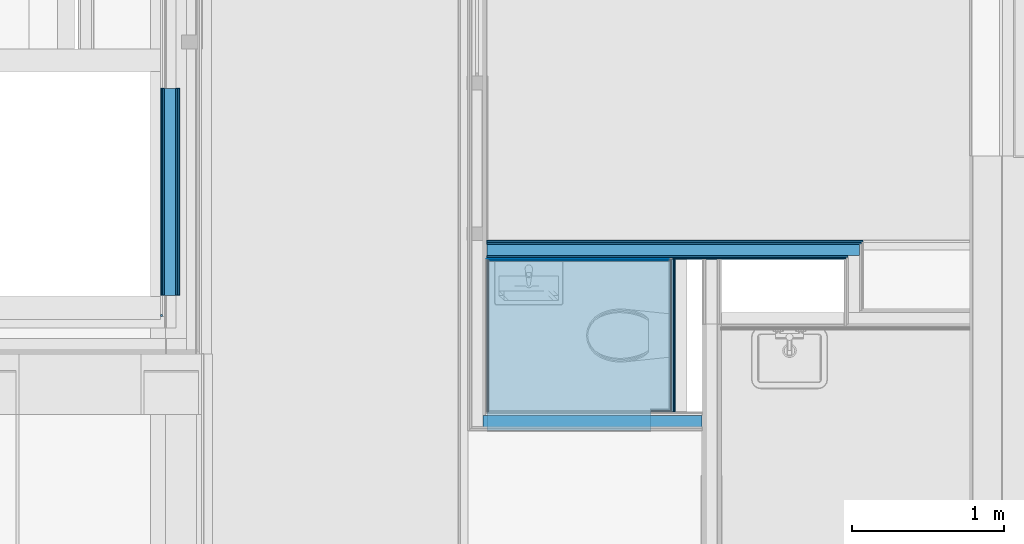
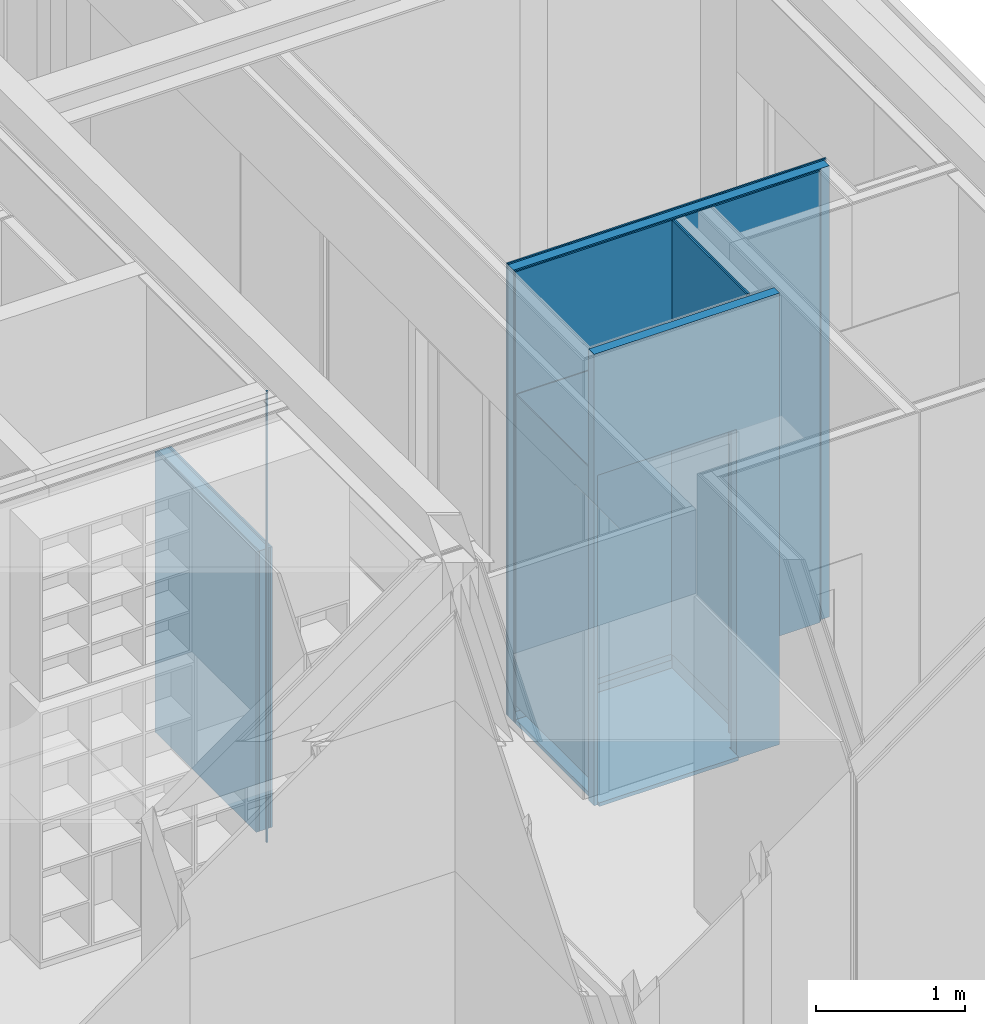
# One storey, part 73 of 137: 20 building element parts, 1 opening, 10 elements without a shape of their own.
"""IFC2X3 building model written with IfcOpenShell, lengths in millimetres."""

from ifc_helpers import new_model, entity, si_unit, converted_unit, derived_unit, money_unit, direction, frame, origin_with_axes, place, context, subcontext, project, spatial, faceted_brep, material, type_object, element, aggregate, save


model = new_model("IFC2X3")

# Units and contexts
model_context = context("Model", 3, precision=0.01, world=origin_with_axes(), true_north=direction((0.0, 1.0)))
body_context = subcontext(model_context, "Body", "Model", "MODEL_VIEW")
ifc_project = project(units=[si_unit("LENGTHUNIT", "METRE", prefix="MILLI"), si_unit("AREAUNIT", "SQUARE_METRE"), si_unit("VOLUMEUNIT", "CUBIC_METRE"), converted_unit("PLANEANGLEUNIT", "DEGREE", entity("IfcPlaneAngleMeasure", 0.0174532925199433), si_unit("PLANEANGLEUNIT", "RADIAN"), dimensions=[0, 0, 0, 0, 0, 0, 0]), money_unit("EUR"), converted_unit("TIMEUNIT", "Year", entity("IfcTimeMeasure", 31556926.0), si_unit("TIMEUNIT", "SECOND"), dimensions=[0, 0, 1, 0, 0, 0, 0]), si_unit("MASSUNIT", "GRAM", prefix="KILO"), si_unit("THERMODYNAMICTEMPERATUREUNIT", "DEGREE_CELSIUS"), si_unit("LUMINOUSINTENSITYUNIT", "LUMEN"), si_unit("ENERGYUNIT", "JOULE", prefix="MEGA"), derived_unit("THERMALCONDUCTANCEUNIT", [(si_unit("POWERUNIT", "WATT"), 1), (si_unit("LENGTHUNIT", "METRE"), -1), (si_unit("THERMODYNAMICTEMPERATUREUNIT", "KELVIN"), -1)]), derived_unit("SPECIFICHEATCAPACITYUNIT", [(si_unit("ENERGYUNIT", "JOULE"), 1), (si_unit("MASSUNIT", "GRAM", prefix="KILO"), -1), (si_unit("THERMODYNAMICTEMPERATUREUNIT", "KELVIN"), -1)]), derived_unit("MASSDENSITYUNIT", [(si_unit("MASSUNIT", "GRAM", prefix="KILO"), 1), (si_unit("VOLUMEUNIT", "CUBIC_METRE"), -1)])], contexts=[model_context])

# Site, building, storey
site_placement = place(None, origin_with_axes())
site = spatial("IfcSite", under=ifc_project, at=site_placement, Name="Site", CompositionType="ELEMENT")
building_placement = place(site_placement, origin_with_axes())
building = spatial("IfcBuilding", under=site, at=building_placement, Name="Naam gebouw", CompositionType="ELEMENT")
storey_placement = place(building_placement, frame((0.0, 0.0, 3960.0), z_axis=(0.0, 0.0, 1.0), x_axis=(1.0, 0.0, 0.0)))
storey = spatial("IfcBuildingStorey", under=building, at=storey_placement, Name="1e verdieping", CompositionType="ELEMENT", Elevation=3960.0)

# Proxy, building element part
building_element_proxy_type_1 = type_object("IfcBuildingElementProxyType", Name="22 Metal stud 270 oregon pine 270", PredefinedType="NOTDEFINED")
proxy_1_placement = place(storey_placement, frame((24499.99903999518, 13039.99778166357, -100.0000000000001), z_axis=(0.0, 0.0, 1.0), x_axis=(-1.0, 0.0, 0.0)))
proxy_1 = element("IfcBuildingElementProxy", 1, at=proxy_1_placement, inside=storey, type_object=building_element_proxy_type_1, Name="_Wand-x")
ifc_material_1 = material(Name="Gipsplaat")
building_element_part_1_placement = place(proxy_1_placement, origin_with_axes())
building_element_part_1 = element("IfcBuildingElementPart", 2, at=building_element_part_1_placement, material=ifc_material_1, Name="Gipsplaat", context=body_context, shape_type="Brep", body=[
    faceted_brep([(134.999999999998, -122.5000000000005, 0.0), (134.999999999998, -122.5000000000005, 3685.000029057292), (122.4999999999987, -122.5000000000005, 3685.000029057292), (122.4999999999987, -122.5000000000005, 0.0), (134.999999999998, -109.9999999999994, 3685.000029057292), (134.999999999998, -109.9999999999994, 0.0), (122.4999999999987, -109.9999999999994, 3685.000029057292), (122.4999999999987, -109.9999999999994, 0.0)], [[[0, 1, 2, 3]], [[4, 1, 0, 5]], [[1, 4, 6, 2]], [[3, 2, 6, 7]], [[5, 0, 3, 7]], [[4, 5, 7, 6]]]),
    faceted_brep([(134.999999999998, -122.5000000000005, 3695.000029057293), (134.999999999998, -122.5000000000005, 3700.0), (122.4999999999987, -122.5000000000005, 3700.0), (122.4999999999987, -122.5000000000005, 3695.000029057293), (134.999999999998, -109.9999999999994, 3700.0), (134.999999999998, -109.9999999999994, 3695.000029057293), (122.4999999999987, -109.9999999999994, 3700.0), (122.4999999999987, -109.9999999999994, 3695.000029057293)], [[[0, 1, 2, 3]], [[4, 1, 0, 5]], [[1, 4, 6, 2]], [[6, 7, 3, 2]], [[5, 0, 3, 7]], [[4, 5, 7, 6]]]),
])
aggregate(proxy_1, [building_element_part_1])

# Proxy, building element parts
building_element_proxy_type_2 = type_object("IfcBuildingElementProxyType", Name="22 Metal stud 100 voorzetwand 100", PredefinedType="NOTDEFINED")
proxy_2_placement = place(storey_placement, frame((27724.99819637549, 13524.99144022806, -100.0000000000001), z_axis=(0.0, 0.0, 1.0), x_axis=(-4.734245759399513e-08, -0.9999999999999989, 0.0)))
proxy_2 = element("IfcBuildingElementProxy", 3, at=proxy_2_placement, inside=storey, type_object=building_element_proxy_type_2, Name="_Wand-x")
building_element_part_2_placement = place(proxy_2_placement, origin_with_axes())
building_element_part_2 = element("IfcBuildingElementPart", 4, at=building_element_part_2_placement, material=ifc_material_1, Name="Gipsplaat", context=body_context, shape_type="Brep", body=[
    faceted_brep([(999.998965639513, 4.734240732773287e-05, 0.0), (0.0, 0.0, 0.0), (-5.917808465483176e-07, 12.49999999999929, 0.0), (999.9989567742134, 12.50004734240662, 0.0), (999.998965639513, 4.734240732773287e-05, 3700.0), (0.0, 0.0, 3700.0), (-5.917808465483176e-07, 12.49999999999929, 3700.0), (999.9989567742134, 12.50004734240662, 3700.0)], [[[0, 1, 2, 3]], [[4, 5, 1, 0]], [[2, 1, 5, 6]], [[3, 2, 6, 7]], [[3, 7, 4, 0]], [[7, 6, 5, 4]]]),
])
building_element_part_3_placement = place(proxy_2_placement, origin_with_axes())
building_element_part_3 = element("IfcBuildingElementPart", 5, at=building_element_part_3_placement, material=ifc_material_1, Name="Gipsplaat", context=body_context, shape_type="Brep", body=[
    faceted_brep([(999.9989567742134, 12.50004734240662, 0.0), (-5.917808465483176e-07, 12.49999999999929, 0.0), (-1.183561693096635e-06, 24.99999999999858, 0.0), (999.998947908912, 25.00004734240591, 0.0), (999.9989567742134, 12.50004734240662, 3700.0), (-5.917808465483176e-07, 12.49999999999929, 3700.0), (-1.183561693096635e-06, 24.99999999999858, 3700.0), (999.998947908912, 25.00004734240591, 3700.0)], [[[0, 1, 2, 3]], [[4, 5, 1, 0]], [[2, 1, 5, 6]], [[3, 2, 6, 7]], [[3, 7, 4, 0]], [[7, 6, 5, 4]]]),
])
aggregate(proxy_2, [building_element_part_2, building_element_part_3])

# Proxy, opening, building element part
building_element_proxy_type_3 = type_object("IfcBuildingElementProxyType", Name="22 Metal stud 125 oregon pine 125", PredefinedType="NOTDEFINED")
proxy_3_placement = place(storey_placement, frame((26386.00000000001, 12399.99158833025, -100.0000000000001), z_axis=(0.0, 0.0, 1.0), x_axis=(0.999999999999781, 6.618815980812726e-07, 0.0)))
proxy_3 = element("IfcBuildingElementProxy", 6, at=proxy_3_placement, inside=storey, type_object=building_element_proxy_type_3, Name="_Wand-x")
opening_placement = place(proxy_3_placement, frame((665.0000872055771, 0.0, 100.0000000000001), z_axis=(0.0, 0.0, 1.0), x_axis=(1.0, 0.0, 0.0)))
element("IfcOpeningElement", 7, at=opening_placement, cuts=proxy_3, Name="_01.04", context=body_context, shape_type="Brep", body=[
    faceted_brep([(540.0000833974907, 126.0002210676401, 2600.0), (540.0000833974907, 126.0002210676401, -100.0000000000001), (-539.9999166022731, 126.000935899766, -100.0000000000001), (-539.9999166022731, 126.000935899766, 2600.0), (539.999999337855, -1.00079756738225, 2600.0), (539.999999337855, -1.00079756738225, -100.0000000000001), (-540.0000006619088, -1.000082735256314, -100.0000000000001), (-540.0000006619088, -1.000082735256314, 2600.0)], [[[0, 1, 2, 3]], [[4, 5, 1, 0]], [[5, 6, 2, 1]], [[6, 7, 3, 2]], [[7, 4, 0, 3]], [[6, 5, 4, 7]]]),
])
ifc_material_2 = material(Name="ALG - LICHTE SCHEIDINGSWAND")
building_element_part_4_placement = place(proxy_3_placement, origin_with_axes())
building_element_part_4 = element("IfcBuildingElementPart", 8, at=building_element_part_4_placement, material=ifc_material_2, Name="ALG - LICHTE SCHEIDINGSWAND", context=body_context, shape_type="Brep", body=[
    faceted_brep([(125.0001533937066, 99.99991726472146, 2700.0), (125.0001533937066, 99.99991726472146, 0.0), (100.0000661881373, 99.99993381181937, 0.0), (100.0000661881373, 99.99993381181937, 3700.0), (1538.99771174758, 99.9989813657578, 3700.0), (1538.99771174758, 99.9989813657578, 0.0), (1205.000153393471, 99.99920243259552, 0.0), (1205.000153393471, 99.99920243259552, 2700.0), (125.000103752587, 24.99991726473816, 2700.0), (125.000103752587, 24.99991726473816, 0.0), (100.0000165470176, 24.99993381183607, 0.0), (100.0000165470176, 24.99993381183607, 3700.0), (1538.99766210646, 24.9989813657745, 3700.0), (1538.99766210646, 24.9989813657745, 0.0), (1205.000103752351, 24.99920243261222, 0.0), (1205.000103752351, 24.99920243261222, 2700.0)], [[[0, 1, 2, 3, 4, 5, 6, 7]], [[1, 0, 8, 9]], [[1, 9, 10, 2]], [[10, 11, 3, 2]], [[3, 11, 12, 4]], [[4, 12, 13, 5]], [[14, 6, 5, 13]], [[7, 6, 14, 15]], [[0, 7, 15, 8]], [[15, 14, 13, 12, 11, 10, 9, 8]]]),
])
aggregate(proxy_3, [building_element_part_4])

# Slab, building element part
slab_type = type_object("IfcSlabType", Name="43 Zwevende dekvloer 100", PredefinedType="NOTDEFINED")
slab_placement = place(storey_placement, frame((26511.0000827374, 13524.99822966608, 0.0), z_axis=(0.0, 0.0, 1.0), x_axis=(1.0, 0.0, 0.0)))
slab = element("IfcSlab", 9, at=slab_placement, inside=storey, type_object=slab_type, Name="_Vloer-x", PredefinedType="NOTDEFINED")
ifc_material_3 = material(Name="Isolatie - XPS zwevende dekvloer")
building_element_part_5_placement = place(slab_placement, origin_with_axes())
building_element_part_5 = element("IfcBuildingElementPart", 10, at=building_element_part_5_placement, material=ifc_material_3, Name="Isolatie - XPS zwevende dekvloer", context=body_context, shape_type="Brep", body=[
    faceted_brep([(0.0, 0.0, -100.0000000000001), (0.0, -1125.006641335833, -100.0000000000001), (0.0, -1125.006641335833, -69.99999999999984), (0.0, 0.0, -69.99999999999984), (1213.998092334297, 0.004351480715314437, -100.0000000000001), (1213.998066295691, -1000.005755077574, -100.0000000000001), (1079.999999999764, -1000.005755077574, -100.0000000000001), (1079.999976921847, -1125.006641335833, -100.0000000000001), (1079.999976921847, -1125.006641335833, -69.99999999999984), (1079.999999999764, -1000.005755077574, -69.99999999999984), (1213.998066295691, -1000.005755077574, -69.99999999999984), (1213.998092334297, 0.004351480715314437, -69.99999999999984)], [[[0, 1, 2, 3]], [[0, 4, 5, 6, 7, 1]], [[1, 7, 8, 2]], [[3, 2, 8, 9, 10, 11]], [[4, 0, 3, 11]], [[5, 4, 11, 10]], [[6, 5, 10, 9]], [[7, 6, 9, 8]]]),
])
aggregate(slab, [building_element_part_5])

# Proxy, building element part
building_element_proxy_type_4 = type_object("IfcBuildingElementProxyType", Name="42 Tegelwerk 2600+ 12 x 2600", PredefinedType="NOTDEFINED")
proxy_4_placement = place(storey_placement, frame((27590.99998676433, 12544.9923858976, 0.0), z_axis=(0.0, 0.0, 1.0), x_axis=(0.999999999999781, 6.618815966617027e-07, 0.0)))
proxy_4 = element("IfcBuildingElementProxy", 11, at=proxy_4_placement, inside=storey, type_object=building_element_proxy_type_4, Name="_Wand-x")
ifc_material_4 = material(Name="21 STO lijmlaag")
building_element_part_6_placement = place(proxy_4_placement, origin_with_axes())
building_element_part_6 = element("IfcBuildingElementPart", 12, at=building_element_part_6_placement, material=ifc_material_4, Name="21 STO lijmlaag", context=body_context, shape_type="Brep", body=[
    faceted_brep([(133.9981574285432, -20.00008422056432, 2600.0), (133.9981620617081, -13.00009316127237, 2600.0), (-8.604462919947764e-06, -13.00000447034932, 2600.0), (-1.323762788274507e-05, -19.99999552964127, 2600.0), (133.9981620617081, -13.00009316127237, 50.00000596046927), (133.9981574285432, -20.00008422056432, 50.00000596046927), (133.9981607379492, -15.00008720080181, 50.00000596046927), (-8.604462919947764e-06, -13.00000447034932, 49.99999999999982), (-9.928221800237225e-06, -14.99999850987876, 50.00000596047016), (-1.323762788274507e-05, -19.99999552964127, 49.99999999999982)], [[[0, 1, 2, 3]], [[4, 1, 0, 5, 6]], [[1, 4, 7, 2]], [[2, 7, 8, 9, 3]], [[5, 0, 3, 9]], [[6, 5, 9, 8]], [[4, 6, 8, 7]]]),
])
aggregate(proxy_4, [building_element_part_6])

proxy_5_placement = place(storey_placement, frame((27704.99814997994, 12544.99246135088, 0.0), z_axis=(0.0, 0.0, 1.0), x_axis=(4.734245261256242e-08, 0.9999999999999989, 0.0)))
proxy_5 = element("IfcBuildingElementProxy", 13, at=proxy_5_placement, inside=storey, type_object=building_element_proxy_type_4, Name="_Wand-x")
building_element_part_7_placement = place(proxy_5_placement, origin_with_axes())
building_element_part_7 = element("IfcBuildingElementPart", 14, at=building_element_part_7_placement, material=ifc_material_4, Name="21 STO lijmlaag", context=body_context, shape_type="Brep", body=[
    faceted_brep([(-13.00007930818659, -13.00000508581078, 2600.0), (-13.00007897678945, -19.99999614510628, 2600.0), (979.9989872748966, -19.99994913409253, 2600.0), (979.9990260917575, -12.99995807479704, 2600.0), (-13.00007897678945, -19.99999614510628, 49.99999999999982), (-13.00007930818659, -13.00000508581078, 49.99999999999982), (-13.00007921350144, -14.99999912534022, 49.99999999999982), (979.9989872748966, -19.99994913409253, 50.00000596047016), (979.9990260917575, -12.99995807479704, 50.00000596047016), (979.9990150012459, -14.99995211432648, 50.00000596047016)], [[[0, 1, 2, 3]], [[4, 1, 0, 5, 6]], [[1, 4, 7, 2]], [[8, 3, 2, 7, 9]], [[5, 0, 3, 8]], [[6, 5, 8, 9]], [[4, 6, 9, 7]]]),
])
aggregate(proxy_5, [building_element_part_7])

# Proxy, building element parts
proxy_6_placement = place(storey_placement, frame((27704.99819542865, 13504.99155208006, 0.0), z_axis=(0.0, 0.0, 1.0), x_axis=(-0.9999999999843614, 5.592615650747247e-06, 0.0)))
proxy_6 = element("IfcBuildingElementProxy", 15, at=proxy_6_placement, inside=storey, type_object=building_element_proxy_type_4, Name="_Wand-x")
building_element_part_8_placement = place(proxy_6_placement, origin_with_axes())
building_element_part_8 = element("IfcBuildingElementPart", 16, at=building_element_part_8_placement, material=ifc_material_4, Name="21 STO lijmlaag", context=body_context, shape_type="Brep", body=[
    faceted_brep([(-12.99988631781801, -13.00000447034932, 2600.0), (-12.99984716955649, -19.99999552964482, 2600.0), (1193.998314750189, -19.9999955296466, 2600.000000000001), (1193.998275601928, -13.00000447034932, 2600.000000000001), (-12.99984716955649, -19.99999552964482, 49.99999999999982), (-12.99988631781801, -13.00000447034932, 49.99999999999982), (-12.99987513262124, -14.99999850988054, 49.99999999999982), (1193.998314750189, -19.9999955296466, 50.00000596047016), (1193.998275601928, -13.00000447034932, 50.00000596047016), (1193.998286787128, -14.99999850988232, 50.00000596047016)], [[[0, 1, 2, 3]], [[4, 1, 0, 5, 6]], [[1, 4, 7, 2]], [[8, 3, 2, 7, 9]], [[5, 0, 3, 8]], [[6, 5, 8, 9]], [[4, 6, 9, 7]]]),
])
ifc_material_5 = material(Name="48 vloeivloer Bolidt")
building_element_part_9_placement = place(proxy_6_placement, origin_with_axes())
building_element_part_9 = element("IfcBuildingElementPart", 17, at=building_element_part_9_placement, material=ifc_material_5, Name="48 vloeivloer Bolidt", context=body_context, shape_type="Brep", body=[
    faceted_brep([(-14.9998691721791, -14.99999850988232, 50.00000596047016), (-14.9998412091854, -19.99998360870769, 50.00000596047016), (1193.998314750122, -19.99998360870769, 50.00000596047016), (1193.998286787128, -14.99999850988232, 50.00000596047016), (-14.9998412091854, -19.99998360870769, 0.0), (-14.9998691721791, -14.99999850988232, 0.0), (1193.998314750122, -19.99998360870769, 0.0), (1193.998286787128, -14.99999850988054, 0.0)], [[[0, 1, 2, 3]], [[4, 1, 0, 5]], [[1, 4, 6, 2]], [[3, 2, 6, 7]], [[5, 0, 3, 7]], [[4, 5, 7, 6]]]),
])
aggregate(proxy_6, [building_element_part_8, building_element_part_9])

# Proxy, building element part
proxy_7_placement = place(storey_placement, frame((26531.00000000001, 13504.99811780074, 0.0), z_axis=(0.0, 0.0, 1.0), x_axis=(0.0, -1.0, 0.0)))
proxy_7 = element("IfcBuildingElementProxy", 18, at=proxy_7_placement, inside=storey, type_object=building_element_proxy_type_4, Name="_Wand-x")
building_element_part_10_placement = place(proxy_7_placement, origin_with_axes())
building_element_part_10 = element("IfcBuildingElementPart", 19, at=building_element_part_10_placement, material=ifc_material_4, Name="21 STO lijmlaag", context=body_context, shape_type="Brep", body=[
    faceted_brep([(-13.00007717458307, -13.00000447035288, 49.99999999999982), (-13.00007717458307, -13.00000447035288, 2600.0), (980.0064467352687, -13.00000447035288, 2600.0), (980.0064467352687, -13.00000447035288, 49.99999999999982), (-13.00011632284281, -19.99999552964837, 2600.0), (-13.00008835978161, -14.99999850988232, 49.99999999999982), (-13.00011632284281, -19.99999552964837, 49.99999999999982), (980.0064467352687, -19.99999552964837, 2600.0), (980.0064467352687, -19.99999552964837, 49.99999999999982), (980.0064467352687, -14.99999850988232, 50.00000596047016)], [[[0, 1, 2, 3]], [[4, 1, 0, 5, 6]], [[1, 4, 7, 2]], [[8, 9, 3, 2, 7]], [[5, 0, 3, 9]], [[6, 5, 9, 8]], [[4, 6, 8, 7]]]),
])
aggregate(proxy_7, [building_element_part_10])

# Proxy, building element parts
building_element_proxy_type_5 = type_object("IfcBuildingElementProxyType", Name="22 Metal stud 125 gips 125", PredefinedType="NOTDEFINED")
proxy_8_placement = place(storey_placement, frame((28985.99999991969, 13649.99778166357, -100.0000000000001), z_axis=(0.0, 0.0, 1.0), x_axis=(-1.0, 0.0, 0.0)))
proxy_8 = element("IfcBuildingElementProxy", 20, at=proxy_8_placement, inside=storey, type_object=building_element_proxy_type_5, Name="_Wand-x")
building_element_part_11_placement = place(proxy_8_placement, origin_with_axes())
building_element_part_11 = element("IfcBuildingElementPart", 21, at=building_element_part_11_placement, material=ifc_material_1, Name="Gipsplaat", context=body_context, shape_type="Brep", body=[
    faceted_brep([(2474.999999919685, 100.0000000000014, 0.0), (99.9999999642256, 99.99999999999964, 0.0), (99.99999995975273, 112.5000000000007, 0.0), (2474.999999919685, 112.5000000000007, 0.0), (2474.999999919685, 100.0000000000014, 3700.0), (99.9999999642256, 99.99999999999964, 3700.0), (99.99999995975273, 112.5000000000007, 3700.0), (2474.999999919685, 112.5000000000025, 3700.0)], [[[0, 1, 2, 3]], [[4, 5, 1, 0]], [[2, 1, 5, 6]], [[3, 2, 6, 7]], [[3, 7, 4, 0]], [[7, 6, 5, 4]]]),
])
building_element_part_12_placement = place(proxy_8_placement, origin_with_axes())
building_element_part_12 = element("IfcBuildingElementPart", 22, at=building_element_part_12_placement, material=ifc_material_1, Name="Gipsplaat", context=body_context, shape_type="Brep", body=[
    faceted_brep([(2474.999999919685, 112.5000000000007, 0.0), (112.499999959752, 112.5000000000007, 0.0), (112.4999999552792, 125.0, 0.0), (2474.999999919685, 125.0000000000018, 0.0), (2474.999999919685, 112.5000000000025, 3700.0), (112.499999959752, 112.5000000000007, 3700.0), (112.4999999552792, 125.0, 3700.0), (2474.999999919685, 125.0000000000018, 3700.0)], [[[0, 1, 2, 3]], [[4, 5, 1, 0]], [[2, 1, 5, 6]], [[3, 2, 6, 7]], [[3, 7, 4, 0]], [[7, 6, 5, 4]]]),
])
building_element_part_13_placement = place(proxy_8_placement, origin_with_axes())
building_element_part_13 = element("IfcBuildingElementPart", 23, at=building_element_part_13_placement, material=ifc_material_2, Name="ALG - LICHTE SCHEIDINGSWAND", context=body_context, shape_type="Brep", body=[
    faceted_brep([(2474.999999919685, 25.00000000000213, 0.0), (24.9999999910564, 25.00000000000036, 0.0), (24.99999996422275, 99.99999999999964, 0.0), (2474.999999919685, 100.0000000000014, 0.0), (2474.999999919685, 25.00000000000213, 3700.0), (24.9999999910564, 25.00000000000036, 3700.0), (24.99999996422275, 99.99999999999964, 3700.0), (2474.999999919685, 100.0000000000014, 3700.0)], [[[0, 1, 2, 3]], [[4, 5, 1, 0]], [[2, 1, 5, 6]], [[3, 2, 6, 7]], [[3, 7, 4, 0]], [[7, 6, 5, 4]]]),
])
building_element_part_14_placement = place(proxy_8_placement, origin_with_axes())
building_element_part_14 = element("IfcBuildingElementPart", 24, at=building_element_part_14_placement, material=ifc_material_1, Name="Gipsplaat", context=body_context, shape_type="Brep", body=[
    faceted_brep([(2474.999999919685, 12.50000000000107, 0.0), (12.49999999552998, 12.49999999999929, 0.0), (12.49999999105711, 25.00000000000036, 0.0), (2474.999999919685, 25.00000000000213, 0.0), (2474.999999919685, 12.50000000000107, 3700.0), (12.49999999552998, 12.50000000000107, 3700.0), (12.49999999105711, 25.00000000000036, 3700.0), (2474.999999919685, 25.00000000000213, 3700.0)], [[[0, 1, 2, 3]], [[4, 5, 1, 0]], [[2, 1, 5, 6]], [[3, 2, 6, 7]], [[3, 7, 4, 0]], [[7, 6, 5, 4]]]),
])
building_element_part_15_placement = place(proxy_8_placement, origin_with_axes())
building_element_part_15 = element("IfcBuildingElementPart", 25, at=building_element_part_15_placement, material=ifc_material_1, Name="Gipsplaat", context=body_context, shape_type="Brep", body=[
    faceted_brep([(2474.999999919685, 0.0, 0.0), (0.0, 0.0, 0.0), (-4.46931380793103e-09, 12.49999999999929, 0.0), (2474.999999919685, 12.50000000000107, 0.0), (2474.999999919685, 0.0, 3700.0), (0.0, 0.0, 3700.0), (-4.46931380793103e-09, 12.50000000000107, 3700.0), (2474.999999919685, 12.50000000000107, 3700.0)], [[[0, 1, 2, 3]], [[4, 5, 1, 0]], [[2, 1, 5, 6]], [[3, 2, 6, 7]], [[3, 7, 4, 0]], [[7, 6, 5, 4]]]),
])
aggregate(proxy_8, [building_element_part_11, building_element_part_12, building_element_part_13, building_element_part_14, building_element_part_15])

proxy_9_placement = place(storey_placement, frame((24364.99903999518, 14649.49770206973, -100.0000000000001), z_axis=(0.0, 0.0, 1.0), x_axis=(0.0, -1.0, 0.0)))
proxy_9 = element("IfcBuildingElementProxy", 26, at=proxy_9_placement, inside=storey, type_object=building_element_proxy_type_5, Name="_Wand-x")
building_element_part_16_placement = place(proxy_9_placement, origin_with_axes())
building_element_part_16 = element("IfcBuildingElementPart", 27, at=building_element_part_16_placement, material=ifc_material_1, Name="Gipsplaat", context=body_context, shape_type="Brep", body=[
    faceted_brep([(1360.000000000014, 112.5000000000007, 0.0), (1360.000000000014, 100.0000000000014, 0.0), (0.0, 100.0000000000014, 0.0), (0.0, 112.5000000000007, 0.0), (1360.000000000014, 112.5000000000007, 2300.0), (1360.000000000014, 100.0000000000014, 2300.0), (0.0, 100.0000000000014, 2300.0), (0.0, 112.5000000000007, 2300.0)], [[[0, 1, 2, 3]], [[0, 4, 5, 1]], [[1, 5, 6, 2]], [[3, 2, 6, 7]], [[4, 0, 3, 7]], [[5, 4, 7, 6]]]),
])
building_element_part_17_placement = place(proxy_9_placement, origin_with_axes())
building_element_part_17 = element("IfcBuildingElementPart", 28, at=building_element_part_17_placement, material=ifc_material_1, Name="Gipsplaat", context=body_context, shape_type="Brep", body=[
    faceted_brep([(1360.000000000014, 24.99999999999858, 0.0), (1360.000000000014, 12.49999999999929, 0.0), (0.0, 12.49999999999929, 0.0), (0.0, 24.99999999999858, 0.0), (1360.000000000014, 24.99999999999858, 2300.0), (1360.000000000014, 12.49999999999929, 2300.0), (0.0, 12.49999999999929, 2300.0), (0.0, 24.99999999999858, 2300.0)], [[[0, 1, 2, 3]], [[0, 4, 5, 1]], [[1, 5, 6, 2]], [[3, 2, 6, 7]], [[4, 0, 3, 7]], [[5, 4, 7, 6]]]),
])
building_element_part_18_placement = place(proxy_9_placement, origin_with_axes())
building_element_part_18 = element("IfcBuildingElementPart", 29, at=building_element_part_18_placement, material=ifc_material_1, Name="Gipsplaat", context=body_context, shape_type="Brep", body=[
    faceted_brep([(1360.000000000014, 125.0, 0.0), (1360.000000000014, 112.5000000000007, 0.0), (0.0, 112.5000000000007, 0.0), (0.0, 125.0, 0.0), (1360.000000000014, 125.0, 2300.0), (1360.000000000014, 112.5000000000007, 2300.0), (0.0, 112.5000000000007, 2300.0), (0.0, 125.0, 2300.0)], [[[0, 1, 2, 3]], [[0, 4, 5, 1]], [[1, 5, 6, 2]], [[3, 2, 6, 7]], [[4, 0, 3, 7]], [[5, 4, 7, 6]]]),
])
building_element_part_19_placement = place(proxy_9_placement, origin_with_axes())
building_element_part_19 = element("IfcBuildingElementPart", 30, at=building_element_part_19_placement, material=ifc_material_1, Name="Gipsplaat", context=body_context, shape_type="Brep", body=[
    faceted_brep([(1360.000000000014, 12.49999999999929, 0.0), (1360.000000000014, 0.0, 0.0), (0.0, 0.0, 0.0), (0.0, 12.49999999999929, 0.0), (1360.000000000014, 12.49999999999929, 2300.0), (1360.000000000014, 0.0, 2300.0), (0.0, 0.0, 2300.0), (0.0, 12.49999999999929, 2300.0)], [[[0, 1, 2, 3]], [[0, 4, 5, 1]], [[1, 5, 6, 2]], [[3, 2, 6, 7]], [[4, 0, 3, 7]], [[5, 4, 7, 6]]]),
])
building_element_part_20_placement = place(proxy_9_placement, origin_with_axes())
building_element_part_20 = element("IfcBuildingElementPart", 31, at=building_element_part_20_placement, material=ifc_material_2, Name="ALG - LICHTE SCHEIDINGSWAND", context=body_context, shape_type="Brep", body=[
    faceted_brep([(1360.000000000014, 100.0000000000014, 0.0), (1360.000000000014, 24.99999999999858, 0.0), (0.0, 24.99999999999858, 0.0), (0.0, 100.0000000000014, 0.0), (1360.000000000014, 100.0000000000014, 2300.0), (1360.000000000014, 24.99999999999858, 2300.0), (0.0, 24.99999999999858, 2300.0), (0.0, 100.0000000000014, 2300.0)], [[[0, 1, 2, 3]], [[0, 4, 5, 1]], [[1, 5, 6, 2]], [[3, 2, 6, 7]], [[4, 0, 3, 7]], [[5, 4, 7, 6]]]),
])
aggregate(proxy_9, [building_element_part_16, building_element_part_17, building_element_part_18, building_element_part_19, building_element_part_20])

save(model, "model.ifc")
